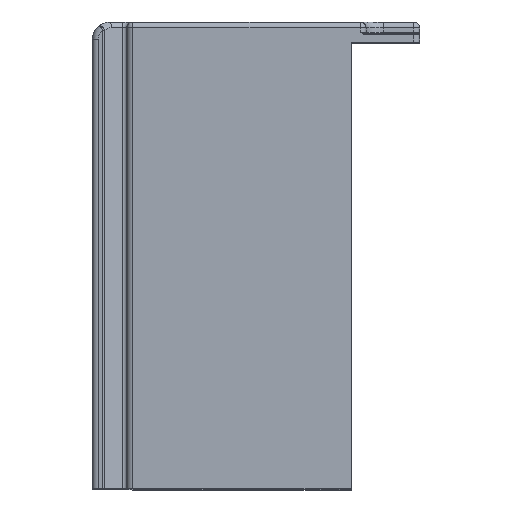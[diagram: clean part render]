
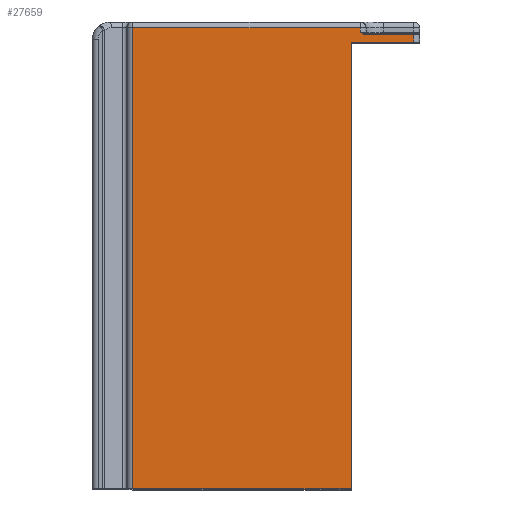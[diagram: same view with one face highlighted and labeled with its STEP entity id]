
A CAD part, top view. The second image highlights one B-rep face of the part: STEP entity #27659.
In plain terms, the highlighted planar face has unit normal (0, 0, 1).
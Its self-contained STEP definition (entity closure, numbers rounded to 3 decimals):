
#2=DIRECTION('',(0.,1.,0.));
#3=VECTOR('',#2,0.8);
#4=CARTESIAN_POINT('',(-64.,31.7,45.));
#5=LINE('',#4,#3);
#6=CARTESIAN_POINT('',(-63.702,31.5,45.));
#7=CARTESIAN_POINT('',(-63.676,31.484,45.));
#8=CARTESIAN_POINT('',(-63.625,31.455,45.));
#9=CARTESIAN_POINT('',(-63.556,31.419,45.));
#10=CARTESIAN_POINT('',(-63.493,31.389,45.));
#11=CARTESIAN_POINT('',(-63.435,31.366,45.));
#12=CARTESIAN_POINT('',(-63.382,31.347,45.));
#13=CARTESIAN_POINT('',(-63.331,31.332,45.));
#14=CARTESIAN_POINT('',(-63.281,31.319,45.));
#15=CARTESIAN_POINT('',(-63.231,31.31,45.));
#16=CARTESIAN_POINT('',(-63.185,31.304,45.));
#17=CARTESIAN_POINT('',(-63.143,31.301,45.));
#18=CARTESIAN_POINT('',(-63.118,31.3,45.));
#19=CARTESIAN_POINT('',(-63.106,31.3,45.));
#21=DIRECTION('',(1.,0.,0.));
#22=VECTOR('',#21,8.406);
#23=CARTESIAN_POINT('',(-63.106,31.3,45.));
#24=LINE('',#23,#22);
#25=DIRECTION('',(0.,1.,0.));
#26=VECTOR('',#25,1.3);
#27=CARTESIAN_POINT('',(-54.7,30.,45.));
#28=LINE('',#27,#26);
#29=DIRECTION('',(1.,0.,0.));
#30=VECTOR('',#29,10.9);
#31=CARTESIAN_POINT('',(-65.6,30.,45.));
#32=LINE('',#31,#30);
#33=DIRECTION('',(0.,1.,0.));
#34=VECTOR('',#33,77.5);
#35=CARTESIAN_POINT('',(-65.6,-47.5,45.));
#36=LINE('',#35,#34);
#37=DIRECTION('',(-1.,0.,0.));
#38=VECTOR('',#37,37.9);
#39=CARTESIAN_POINT('',(-65.6,-47.5,45.));
#40=LINE('',#39,#38);
#41=DIRECTION('',(0.,-1.,0.));
#42=VECTOR('',#41,80.);
#43=CARTESIAN_POINT('',(-103.5,32.5,45.));
#44=LINE('',#43,#42);
#45=DIRECTION('',(-1.,0.,0.));
#46=VECTOR('',#45,39.5);
#47=CARTESIAN_POINT('',(-64.,32.5,45.));
#48=LINE('',#47,#46);
#20208=CARTESIAN_POINT('',(-64.,31.7,45.));
#20209=CARTESIAN_POINT('',(-63.98,31.686,45.));
#20210=CARTESIAN_POINT('',(-63.937,31.656,
45.));
#20211=CARTESIAN_POINT('',(-63.867,31.607,
45.));
#20212=CARTESIAN_POINT('',(-63.79,31.555,
45.));
#20213=CARTESIAN_POINT('',(-63.733,31.518,
45.));
#20214=CARTESIAN_POINT('',(-63.702,31.5,45.));
#21728=CARTESIAN_POINT('',(-65.6,-47.5,45.));
#21729=VERTEX_POINT('',#21728);
#21734=CARTESIAN_POINT('',(-65.6,30.,45.));
#21735=VERTEX_POINT('',#21734);
#22003=CARTESIAN_POINT('',(-64.,31.7,45.));
#22005=VERTEX_POINT('',#22003);
#22014=CARTESIAN_POINT('',(-63.106,31.3,45.));
#22015=VERTEX_POINT('',#22014);
#22149=CARTESIAN_POINT('',(-103.5,-47.5,45.));
#22151=VERTEX_POINT('',#22149);
#22155=CARTESIAN_POINT('',(-64.,32.5,45.));
#22156=VERTEX_POINT('',#22155);
#22209=CARTESIAN_POINT('',(-103.5,32.5,45.));
#22210=VERTEX_POINT('',#22209);
#22340=CARTESIAN_POINT('',(-54.7,30.,45.));
#22342=VERTEX_POINT('',#22340);
#22351=CARTESIAN_POINT('',(-54.7,31.3,45.));
#22352=VERTEX_POINT('',#22351);
#22387=VERTEX_POINT('',#6);
#27632=CARTESIAN_POINT('',(0.,0.,45.));
#27633=DIRECTION('',(0.,0.,1.));
#27634=DIRECTION('',(1.,0.,0.));
#27635=AXIS2_PLACEMENT_3D('',#27632,#27633,#27634);
#27636=PLANE('',#27635);
#27638=ORIENTED_EDGE('',*,*,#27637,.F.);
#27640=ORIENTED_EDGE('',*,*,#27639,.T.);
#27642=ORIENTED_EDGE('',*,*,#27641,.T.);
#27644=ORIENTED_EDGE('',*,*,#27643,.T.);
#27646=ORIENTED_EDGE('',*,*,#27645,.F.);
#27648=ORIENTED_EDGE('',*,*,#27647,.F.);
#27650=ORIENTED_EDGE('',*,*,#27649,.F.);
#27652=ORIENTED_EDGE('',*,*,#27651,.T.);
#27654=ORIENTED_EDGE('',*,*,#27653,.F.);
#27656=ORIENTED_EDGE('',*,*,#27655,.F.);
#27657=EDGE_LOOP('',(#27638,#27640,#27642,#27644,#27646,#27648,#27650,#27652,
#27654,#27656));
#27658=FACE_OUTER_BOUND('',#27657,.F.);
#27659=ADVANCED_FACE('',(#27658),#27636,.T.);
#20=B_SPLINE_CURVE_WITH_KNOTS('',3,(#6,#7,#8,#9,#10,#11,#12,#13,#14,#15,#16,#17,
#18,#19),.UNSPECIFIED.,.F.,.F.,(4,1,1,1,1,1,1,1,1,1,1,4),(0.,
0.091,0.182,0.273,0.364,
0.455,0.545,0.636,0.727,
0.818,0.909,1.),.UNSPECIFIED.);
#20215=B_SPLINE_CURVE_WITH_KNOTS('',3,(#20208,#20209,#20210,#20211,#20212,
#20213,#20214),.UNSPECIFIED.,.F.,.F.,(4,1,1,1,4),(0.,0.25,0.5,0.75,
1.),.UNSPECIFIED.);
#27637=EDGE_CURVE('',#22005,#22156,#5,.T.);
#27639=EDGE_CURVE('',#22005,#22387,#20215,.T.);
#27641=EDGE_CURVE('',#22387,#22015,#20,.T.);
#27643=EDGE_CURVE('',#22015,#22352,#24,.T.);
#27645=EDGE_CURVE('',#22342,#22352,#28,.T.);
#27647=EDGE_CURVE('',#21735,#22342,#32,.T.);
#27649=EDGE_CURVE('',#21729,#21735,#36,.T.);
#27651=EDGE_CURVE('',#21729,#22151,#40,.T.);
#27653=EDGE_CURVE('',#22210,#22151,#44,.T.);
#27655=EDGE_CURVE('',#22156,#22210,#48,.T.);
